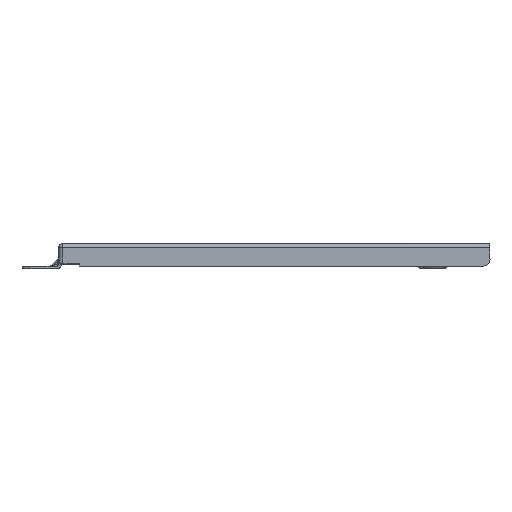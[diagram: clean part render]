
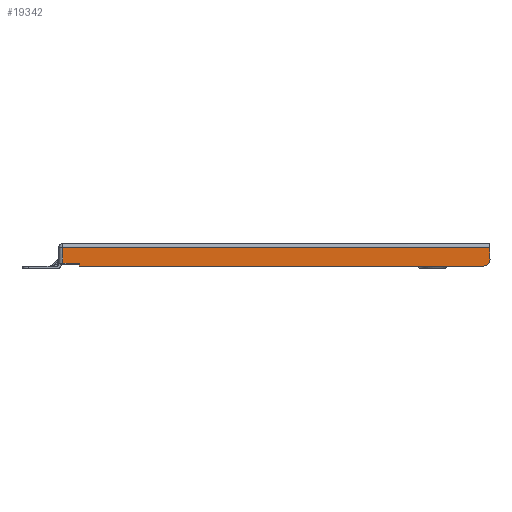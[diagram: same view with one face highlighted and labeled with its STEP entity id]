
A CAD part, front view. The second image highlights one B-rep face of the part: STEP entity #19342.
In plain terms, the highlighted planar face has unit normal (0, -1, 0).
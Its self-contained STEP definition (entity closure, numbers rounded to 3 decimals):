
#19298=AXIS2_PLACEMENT_3D('Plane Axis2P3D',#19295,#19296,#19297) ;
#19330=AXIS2_PLACEMENT_3D('Circle Axis2P3D',#19328,#19329,$) ;
#16248=CARTESIAN_POINT('Vertex',(1561.499,425.001,45.501)) ;
#16251=CARTESIAN_POINT('Line Origine',(1561.499,425.001,38.251)) ;
#16255=CARTESIAN_POINT('Vertex',(1561.499,425.001,31.001)) ;
#19268=CARTESIAN_POINT('Line Origine',(1298.249,425.001,45.498)) ;
#19272=CARTESIAN_POINT('Vertex',(1039.999,425.001,45.494)) ;
#19295=CARTESIAN_POINT('Axis2P3D Location',(1561.499,425.001,20.001)) ;
#19300=CARTESIAN_POINT('Line Origine',(1039.999,425.001,35.994)) ;
#19304=CARTESIAN_POINT('Vertex',(1039.999,425.001,26.494)) ;
#19307=CARTESIAN_POINT('Line Origine',(1049.999,425.001,26.494)) ;
#19311=CARTESIAN_POINT('Vertex',(1059.999,425.001,26.494)) ;
#19314=CARTESIAN_POINT('Line Origine',(1059.999,425.001,24.744)) ;
#19318=CARTESIAN_POINT('Vertex',(1059.999,425.001,22.994)) ;
#19321=CARTESIAN_POINT('Line Origine',(1306.749,425.001,22.998)) ;
#19325=CARTESIAN_POINT('Vertex',(1553.499,425.001,23.001)) ;
#19328=CARTESIAN_POINT('Axis2P3D Location',(1553.499,425.001,31.001)) ;
#16252=DIRECTION('Vector Direction',(0.,0.,1.)) ;
#19269=DIRECTION('Vector Direction',(1.,0.,0.)) ;
#19296=DIRECTION('Axis2P3D Direction',(0.,1.,0.)) ;
#19297=DIRECTION('Axis2P3D XDirection',(-1.,0.,0.)) ;
#19301=DIRECTION('Vector Direction',(0.,0.,1.)) ;
#19308=DIRECTION('Vector Direction',(-1.,0.,0.)) ;
#19315=DIRECTION('Vector Direction',(0.,0.,1.)) ;
#19322=DIRECTION('Vector Direction',(-1.,0.,0.)) ;
#19329=DIRECTION('Axis2P3D Direction',(0.,1.,0.)) ;
#16253=VECTOR('Line Direction',#16252,1.) ;
#19270=VECTOR('Line Direction',#19269,1.) ;
#19302=VECTOR('Line Direction',#19301,1.) ;
#19309=VECTOR('Line Direction',#19308,1.) ;
#19316=VECTOR('Line Direction',#19315,1.) ;
#19323=VECTOR('Line Direction',#19322,1.) ;
#19334=ORIENTED_EDGE('',*,*,#19306,.F.) ;
#19335=ORIENTED_EDGE('',*,*,#19313,.F.) ;
#19336=ORIENTED_EDGE('',*,*,#19320,.F.) ;
#19337=ORIENTED_EDGE('',*,*,#19327,.F.) ;
#19338=ORIENTED_EDGE('',*,*,#19332,.F.) ;
#19339=ORIENTED_EDGE('',*,*,#16257,.T.) ;
#19340=ORIENTED_EDGE('',*,*,#19274,.F.) ;
#19342=ADVANCED_FACE('interfacebia.1\\20mm--\X2\526F9A7E624B52A86807914D\X0\',(#19341),#19299,.F.) ;
#19331=CIRCLE('generated circle',#19330,8.) ;
#16257=EDGE_CURVE('',#16256,#16249,#16254,.T.) ;
#19274=EDGE_CURVE('',#19273,#16249,#19271,.T.) ;
#19306=EDGE_CURVE('',#19305,#19273,#19303,.T.) ;
#19313=EDGE_CURVE('',#19312,#19305,#19310,.T.) ;
#19320=EDGE_CURVE('',#19319,#19312,#19317,.T.) ;
#19327=EDGE_CURVE('',#19326,#19319,#19324,.T.) ;
#19332=EDGE_CURVE('',#16256,#19326,#19331,.T.) ;
#19333=EDGE_LOOP('',(#19334,#19335,#19336,#19337,#19338,#19339,#19340)) ;
#19341=FACE_OUTER_BOUND('',#19333,.T.) ;
#16254=LINE('Line',#16251,#16253) ;
#19271=LINE('Line',#19268,#19270) ;
#19303=LINE('Line',#19300,#19302) ;
#19310=LINE('Line',#19307,#19309) ;
#19317=LINE('Line',#19314,#19316) ;
#19324=LINE('Line',#19321,#19323) ;
#19299=PLANE('Plane',#19298) ;
#16249=VERTEX_POINT('',#16248) ;
#16256=VERTEX_POINT('',#16255) ;
#19273=VERTEX_POINT('',#19272) ;
#19305=VERTEX_POINT('',#19304) ;
#19312=VERTEX_POINT('',#19311) ;
#19319=VERTEX_POINT('',#19318) ;
#19326=VERTEX_POINT('',#19325) ;
